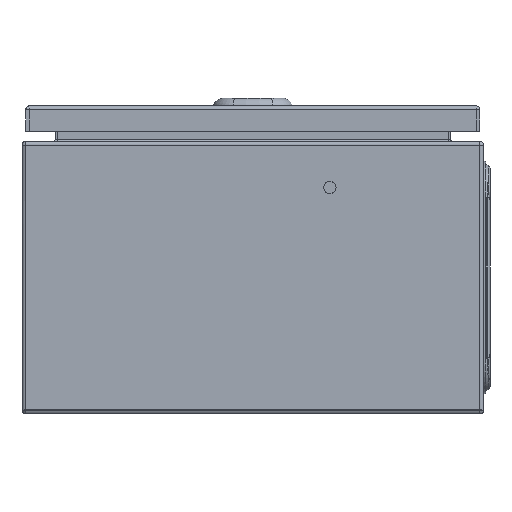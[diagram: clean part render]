
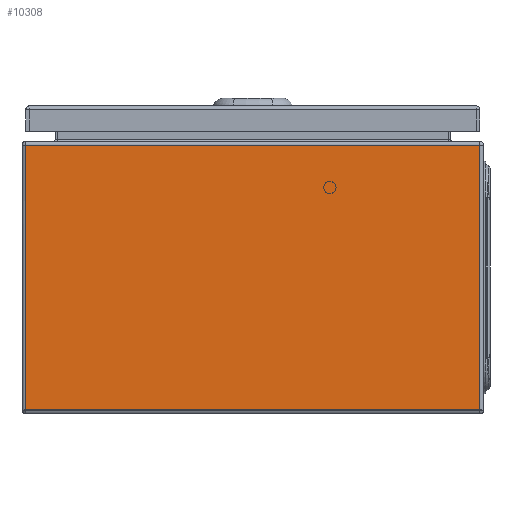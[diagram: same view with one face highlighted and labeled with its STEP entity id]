
A CAD part, left-side view. The second image highlights one B-rep face of the part: STEP entity #10308.
In plain terms, the highlighted planar face has unit normal (-1, 0, 0).
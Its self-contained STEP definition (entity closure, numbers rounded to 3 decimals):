
#829 = DIRECTION ( 'NONE',  ( 0., 0., -1. ) ) ;
#1365 = LINE ( 'NONE', #10203, #4099 ) ;
#1856 = VECTOR ( 'NONE', #829, 1000. ) ;
#2742 = ORIENTED_EDGE ( 'NONE', *, *, #14943, .T. ) ;
#3591 = DIRECTION ( 'NONE',  ( 0., 0., -1. ) ) ;
#3738 = CARTESIAN_POINT ( 'NONE',  ( -200., 147.5, 2.35 ) ) ;
#4099 = VECTOR ( 'NONE', #15197, 1000. ) ;
#4742 = EDGE_CURVE ( 'NONE', #13360, #7686, #13317, .T. ) ;
#4906 = PLANE ( 'NONE',  #12101 ) ;
#5486 = DIRECTION ( 'NONE',  ( 0., -1., 0. ) ) ;
#6245 = CARTESIAN_POINT ( 'NONE',  ( -200., 147.5, 174.5 ) ) ;
#6393 = CARTESIAN_POINT ( 'NONE',  ( -200., 147.5, 1.5 ) ) ;
#6519 = CARTESIAN_POINT ( 'NONE',  ( -200., -147.5, 174.5 ) ) ;
#7686 = VERTEX_POINT ( 'NONE', #6519 ) ;
#7847 = DIRECTION ( 'NONE',  ( 0., -1., 0. ) ) ;
#8398 = FACE_OUTER_BOUND ( 'NONE', #13335, .T. ) ;
#9105 = CARTESIAN_POINT ( 'NONE',  ( -200., -150., 2.35 ) ) ;
#10203 = CARTESIAN_POINT ( 'NONE',  ( -200., -147.5, 1.5 ) ) ;
#10308 = ADVANCED_FACE ( 'NONE', ( #8398 ), #4906, .F. ) ;
#10976 = ORIENTED_EDGE ( 'NONE', *, *, #17170, .T. ) ;
#11629 = LINE ( 'NONE', #6393, #1856 ) ;
#12101 = AXIS2_PLACEMENT_3D ( 'NONE', #18848, #15604, #3591 ) ;
#13081 = CARTESIAN_POINT ( 'NONE',  ( -200., 150., 174.5 ) ) ;
#13317 = LINE ( 'NONE', #13081, #15465 ) ;
#13335 = EDGE_LOOP ( 'NONE', ( #10976, #16033, #2742, #19737 ) ) ;
#13360 = VERTEX_POINT ( 'NONE', #6245 ) ;
#14943 = EDGE_CURVE ( 'NONE', #21370, #7686, #1365, .T. ) ;
#15197 = DIRECTION ( 'NONE',  ( 0., 0., 1. ) ) ;
#15465 = VECTOR ( 'NONE', #7847, 1000. ) ;
#15604 = DIRECTION ( 'NONE',  ( 1., 0., 0. ) ) ;
#16033 = ORIENTED_EDGE ( 'NONE', *, *, #22652, .T. ) ;
#16254 = VECTOR ( 'NONE', #5486, 1000. ) ;
#17170 = EDGE_CURVE ( 'NONE', #13360, #19512, #11629, .T. ) ;
#18848 = CARTESIAN_POINT ( 'NONE',  ( -200., -150., 1.5 ) ) ;
#19512 = VERTEX_POINT ( 'NONE', #3738 ) ;
#19737 = ORIENTED_EDGE ( 'NONE', *, *, #4742, .F. ) ;
#21283 = LINE ( 'NONE', #9105, #16254 ) ;
#21370 = VERTEX_POINT ( 'NONE', #22176 ) ;
#22176 = CARTESIAN_POINT ( 'NONE',  ( -200., -147.5, 2.35 ) ) ;
#22652 = EDGE_CURVE ( 'NONE', #19512, #21370, #21283, .T. ) ;
